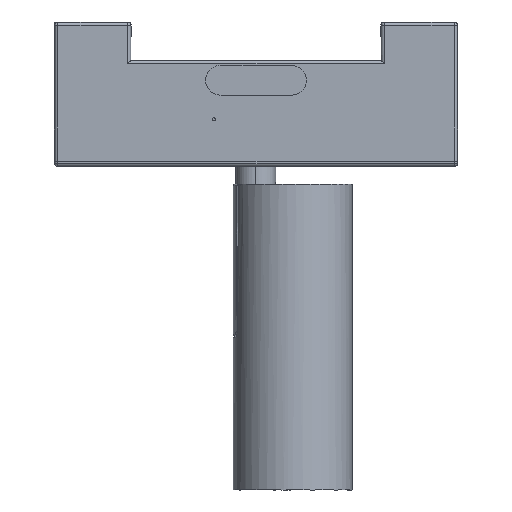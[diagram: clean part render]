
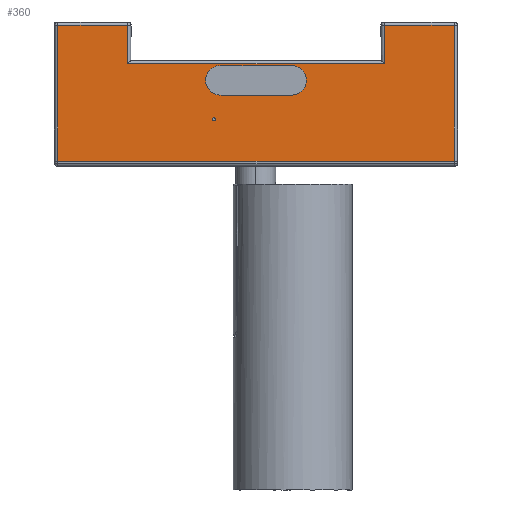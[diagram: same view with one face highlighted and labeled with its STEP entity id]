
A CAD part, left-side view. The second image highlights one B-rep face of the part: STEP entity #360.
In plain terms, the highlighted planar face has unit normal (-1, 0, 0).
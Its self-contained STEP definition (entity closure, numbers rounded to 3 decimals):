
#54=FACE_BOUND('',#1135,.T.);
#55=FACE_BOUND('',#1136,.T.);
#360=ADVANCED_FACE('',(#740,#54,#55),#5719,.T.);
#740=FACE_OUTER_BOUND('',#1134,.T.);
#1134=EDGE_LOOP('',(#2647,#2648,#2649,#2650,#2651,#2652,#2653,#2654));
#1135=EDGE_LOOP('',(#2655));
#1136=EDGE_LOOP('',(#2656,#2657));
#2647=ORIENTED_EDGE('',*,*,#3757,.T.);
#2648=ORIENTED_EDGE('',*,*,#3704,.T.);
#2649=ORIENTED_EDGE('',*,*,#3810,.T.);
#2650=ORIENTED_EDGE('',*,*,#3792,.F.);
#2651=ORIENTED_EDGE('',*,*,#3811,.T.);
#2652=ORIENTED_EDGE('',*,*,#3755,.T.);
#2653=ORIENTED_EDGE('',*,*,#3760,.T.);
#2654=ORIENTED_EDGE('',*,*,#3685,.T.);
#2655=ORIENTED_EDGE('',*,*,#3824,.T.);
#2656=ORIENTED_EDGE('',*,*,#3977,.T.);
#2657=ORIENTED_EDGE('',*,*,#3981,.T.);
#3685=EDGE_CURVE('',#5350,#5351,#4756,.T.);
#3704=EDGE_CURVE('',#5366,#5367,#4761,.T.);
#3755=EDGE_CURVE('',#5395,#5396,#4794,.T.);
#3757=EDGE_CURVE('',#5351,#5366,#4795,.T.);
#3760=EDGE_CURVE('',#5396,#5350,#4796,.T.);
#3792=EDGE_CURVE('',#5424,#5425,#4822,.T.);
#3810=EDGE_CURVE('',#5367,#5425,#4829,.T.);
#3811=EDGE_CURVE('',#5424,#5395,#4830,.T.);
#3824=EDGE_CURVE('',#5428,#5428,#4418,.T.);
#3977=EDGE_CURVE('',#5427,#5520,#4457,.T.);
#3981=EDGE_CURVE('',#5520,#5427,#4461,.T.);
#4418=(
BOUNDED_CURVE()
B_SPLINE_CURVE(2,(#21539,#21540,#21541,#21542,#21543,#21544,#21545,#21546,
#21547,#21548,#21549,#21550,#21551),.UNSPECIFIED.,.T.,.F.)
B_SPLINE_CURVE_WITH_KNOTS((3,2,2,2,2,2,3),(-7.825,0.,
24.,31.825,39.65,63.65,71.475),
 .UNSPECIFIED.)
CURVE()
GEOMETRIC_REPRESENTATION_ITEM()
RATIONAL_B_SPLINE_CURVE((1.,0.707,1.,1.,1.,0.707,
1.,0.707,1.,1.,1.,0.707,1.))
REPRESENTATION_ITEM('')
);
#4457=(
BOUNDED_CURVE()
B_SPLINE_CURVE(2,(#22276,#22277,#22278,#22279,#22280),.UNSPECIFIED.,.F.,
 .F.)
B_SPLINE_CURVE_WITH_KNOTS((3,2,3),(-3.142,-2.356,
-1.571),.UNSPECIFIED.)
CURVE()
GEOMETRIC_REPRESENTATION_ITEM()
RATIONAL_B_SPLINE_CURVE((1.,0.707,1.,0.707,1.))
REPRESENTATION_ITEM('')
);
#4461=(
BOUNDED_CURVE()
B_SPLINE_CURVE(2,(#22290,#22291,#22292,#22293,#22294),.UNSPECIFIED.,.F.,
 .F.)
B_SPLINE_CURVE_WITH_KNOTS((3,2,3),(-1.571,-0.785,
0.),.UNSPECIFIED.)
CURVE()
GEOMETRIC_REPRESENTATION_ITEM()
RATIONAL_B_SPLINE_CURVE((1.,0.707,1.,0.707,1.))
REPRESENTATION_ITEM('')
);
#4756=B_SPLINE_CURVE_WITH_KNOTS('',1,(#21197,#21198),.UNSPECIFIED.,.F.,
 .F.,(2,2),(0.,86.514),.UNSPECIFIED.);
#4761=B_SPLINE_CURVE_WITH_KNOTS('',1,(#21251,#21252),.UNSPECIFIED.,.F.,
 .F.,(2,2),(0.,23.586),.UNSPECIFIED.);
#4794=B_SPLINE_CURVE_WITH_KNOTS('',1,(#21375,#21376),.UNSPECIFIED.,.F.,
 .F.,(2,2),(0.,23.586),.UNSPECIFIED.);
#4795=B_SPLINE_CURVE_WITH_KNOTS('',1,(#21380,#21381),.UNSPECIFIED.,.F.,
 .F.,(2,2),(0.,12.873),.UNSPECIFIED.);
#4796=B_SPLINE_CURVE_WITH_KNOTS('',1,(#21388,#21389),.UNSPECIFIED.,.F.,
 .F.,(2,2),(0.,12.873),.UNSPECIFIED.);
#4822=B_SPLINE_CURVE_WITH_KNOTS('',1,(#21460,#21461),.UNSPECIFIED.,.F.,
 .F.,(2,2),(0.,133.686),.UNSPECIFIED.);
#4829=B_SPLINE_CURVE_WITH_KNOTS('',1,(#21507,#21508),.UNSPECIFIED.,.F.,
 .F.,(2,2),(0.,45.743),.UNSPECIFIED.);
#4830=B_SPLINE_CURVE_WITH_KNOTS('',1,(#21509,#21510),.UNSPECIFIED.,.F.,
 .F.,(2,2),(0.,45.743),.UNSPECIFIED.);
#5350=VERTEX_POINT('',#20956);
#5351=VERTEX_POINT('',#20957);
#5366=VERTEX_POINT('',#20972);
#5367=VERTEX_POINT('',#20973);
#5395=VERTEX_POINT('',#21001);
#5396=VERTEX_POINT('',#21002);
#5424=VERTEX_POINT('',#21030);
#5425=VERTEX_POINT('',#21031);
#5427=VERTEX_POINT('',#21033);
#5428=VERTEX_POINT('',#21034);
#5520=VERTEX_POINT('',#21126);
#5719=PLANE('',#6103);
#6103=AXIS2_PLACEMENT_3D('',#20606,#6317,$);
#6317=DIRECTION('',(-1.,0.,0.));
#20606=CARTESIAN_POINT('',(64.516,-7.483,-40.953));
#20956=CARTESIAN_POINT('',(64.516,16.102,-8.083));
#20957=CARTESIAN_POINT('',(64.516,102.617,-8.083));
#20972=CARTESIAN_POINT('',(64.516,102.617,4.79));
#20973=CARTESIAN_POINT('',(64.516,126.202,4.79));
#21001=CARTESIAN_POINT('',(64.516,-7.483,4.79));
#21002=CARTESIAN_POINT('',(64.516,16.102,4.79));
#21030=CARTESIAN_POINT('',(64.516,-7.483,-40.964));
#21031=CARTESIAN_POINT('',(64.516,126.202,-40.964));
#21033=CARTESIAN_POINT('',(64.516,73.574,-26.333));
#21034=CARTESIAN_POINT('',(64.516,42.378,-13.703));
#21126=CARTESIAN_POINT('',(64.516,73.574,-27.333));
#21197=CARTESIAN_POINT('',(64.516,16.102,-8.083));
#21198=CARTESIAN_POINT('',(64.516,102.617,-8.083));
#21251=CARTESIAN_POINT('',(64.516,102.617,4.79));
#21252=CARTESIAN_POINT('',(64.516,126.202,4.79));
#21375=CARTESIAN_POINT('',(64.516,-7.483,4.79));
#21376=CARTESIAN_POINT('',(64.516,16.102,4.79));
#21380=CARTESIAN_POINT('',(64.516,102.617,-8.083));
#21381=CARTESIAN_POINT('',(64.516,102.617,4.79));
#21388=CARTESIAN_POINT('',(64.516,16.102,4.79));
#21389=CARTESIAN_POINT('',(64.516,16.102,-8.083));
#21460=CARTESIAN_POINT('',(64.516,-7.483,-40.964));
#21461=CARTESIAN_POINT('',(64.516,126.202,-40.964));
#21507=CARTESIAN_POINT('',(64.516,126.202,4.79));
#21508=CARTESIAN_POINT('',(64.516,126.202,-40.964));
#21509=CARTESIAN_POINT('',(64.516,-7.483,-40.964));
#21510=CARTESIAN_POINT('',(64.516,-7.483,4.79));
#21539=CARTESIAN_POINT('',(64.516,42.378,-13.703));
#21540=CARTESIAN_POINT('',(64.516,42.378,-18.684));
#21541=CARTESIAN_POINT('',(64.516,47.36,-18.684));
#21542=CARTESIAN_POINT('',(64.516,59.36,-18.684));
#21543=CARTESIAN_POINT('',(64.516,71.36,-18.684));
#21544=CARTESIAN_POINT('',(64.516,76.341,-18.684));
#21545=CARTESIAN_POINT('',(64.516,76.341,-13.703));
#21546=CARTESIAN_POINT('',(64.516,76.341,-8.721));
#21547=CARTESIAN_POINT('',(64.516,71.36,-8.721));
#21548=CARTESIAN_POINT('',(64.516,59.36,-8.721));
#21549=CARTESIAN_POINT('',(64.516,47.36,-8.721));
#21550=CARTESIAN_POINT('',(64.516,42.378,-8.721));
#21551=CARTESIAN_POINT('',(64.516,42.378,-13.703));
#22276=CARTESIAN_POINT('',(64.516,73.574,-26.333));
#22277=CARTESIAN_POINT('',(64.516,73.074,-26.333));
#22278=CARTESIAN_POINT('',(64.516,73.074,-26.833));
#22279=CARTESIAN_POINT('',(64.516,73.074,-27.333));
#22280=CARTESIAN_POINT('',(64.516,73.574,-27.333));
#22290=CARTESIAN_POINT('',(64.516,73.574,-27.333));
#22291=CARTESIAN_POINT('',(64.516,74.074,-27.333));
#22292=CARTESIAN_POINT('',(64.516,74.074,-26.833));
#22293=CARTESIAN_POINT('',(64.516,74.074,-26.333));
#22294=CARTESIAN_POINT('',(64.516,73.574,-26.333));
